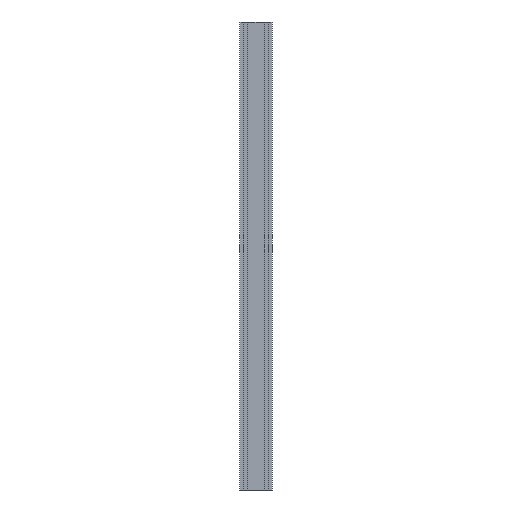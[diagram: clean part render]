
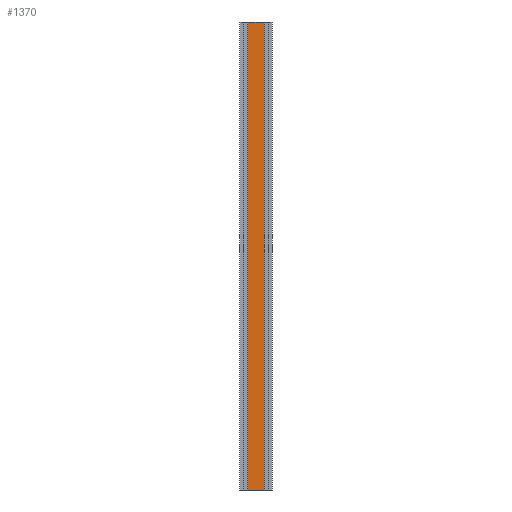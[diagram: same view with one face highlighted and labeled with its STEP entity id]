
A CAD part, front view. The second image highlights one B-rep face of the part: STEP entity #1370.
In plain terms, the highlighted planar face has unit normal (0, -1, 0).
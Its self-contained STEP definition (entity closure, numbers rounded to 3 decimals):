
#216 = VERTEX_POINT ( 'NONE', #2249 ) ;
#290 = EDGE_CURVE ( 'NONE', #216, #336, #2447, .T. ) ;
#336 = VERTEX_POINT ( 'NONE', #2521 ) ;
#527 = VERTEX_POINT ( 'NONE', #2851 ) ;
#529 = EDGE_CURVE ( 'NONE', #530, #527, #2770, .T. ) ;
#530 = VERTEX_POINT ( 'NONE', #2766 ) ;
#1327 = EDGE_LOOP ( 'NONE', ( #1375, #1376, #1396, #1397 ) ) ;
#1370 = ADVANCED_FACE ( 'NONE', ( #4165 ), #4164, .F. ) ;
#1375 = ORIENTED_EDGE ( 'NONE', *, *, #529, .T. ) ;
#1376 = ORIENTED_EDGE ( 'NONE', *, *, #1395, .F. ) ;
#1382 = EDGE_CURVE ( 'NONE', #216, #530, #4213, .T. ) ;
#1395 = EDGE_CURVE ( 'NONE', #336, #527, #4232, .T. ) ;
#1396 = ORIENTED_EDGE ( 'NONE', *, *, #290, .F. ) ;
#1397 = ORIENTED_EDGE ( 'NONE', *, *, #1382, .T. ) ;
#2249 = CARTESIAN_POINT ( 'NONE',  ( -32.466, -12.4, 1500. ) ) ;
#2409 = CARTESIAN_POINT ( 'NONE',  ( 32.466, -12.4, 1500. ) ) ;
#2433 = VECTOR ( 'NONE', #2446, 1000. ) ;
#2446 = DIRECTION ( 'NONE',  ( 1., 0., 0. ) ) ;
#2447 = LINE ( 'NONE', #2409, #2433 ) ;
#2521 = CARTESIAN_POINT ( 'NONE',  ( 32.466, -12.4, 1500. ) ) ;
#2766 = CARTESIAN_POINT ( 'NONE',  ( -32.466, -12.4, 0. ) ) ;
#2767 = DIRECTION ( 'NONE',  ( 1., 0., 0. ) ) ;
#2768 = VECTOR ( 'NONE', #2767, 1000. ) ;
#2769 = CARTESIAN_POINT ( 'NONE',  ( 32.466, -12.4, 0. ) ) ;
#2770 = LINE ( 'NONE', #2769, #2768 ) ;
#2851 = CARTESIAN_POINT ( 'NONE',  ( 32.466, -12.4, 0. ) ) ;
#4163 = CARTESIAN_POINT ( 'NONE',  ( 32.466, -12.4, 1500. ) ) ;
#4164 = PLANE ( 'NONE',  #4221 ) ;
#4165 = FACE_OUTER_BOUND ( 'NONE', #1327, .T. ) ;
#4210 = DIRECTION ( 'NONE',  ( 0., 0., -1. ) ) ;
#4211 = VECTOR ( 'NONE', #4210, 1000. ) ;
#4212 = CARTESIAN_POINT ( 'NONE',  ( -32.466, -12.4, 1500. ) ) ;
#4213 = LINE ( 'NONE', #4212, #4211 ) ;
#4219 = DIRECTION ( 'NONE',  ( -1., 0., 0. ) ) ;
#4220 = DIRECTION ( 'NONE',  ( 0., 1., 0. ) ) ;
#4221 = AXIS2_PLACEMENT_3D ( 'NONE', #4163, #4220, #4219 ) ;
#4229 = DIRECTION ( 'NONE',  ( 0., 0., -1. ) ) ;
#4230 = VECTOR ( 'NONE', #4229, 1000. ) ;
#4231 = CARTESIAN_POINT ( 'NONE',  ( 32.466, -12.4, 1500. ) ) ;
#4232 = LINE ( 'NONE', #4231, #4230 ) ;
